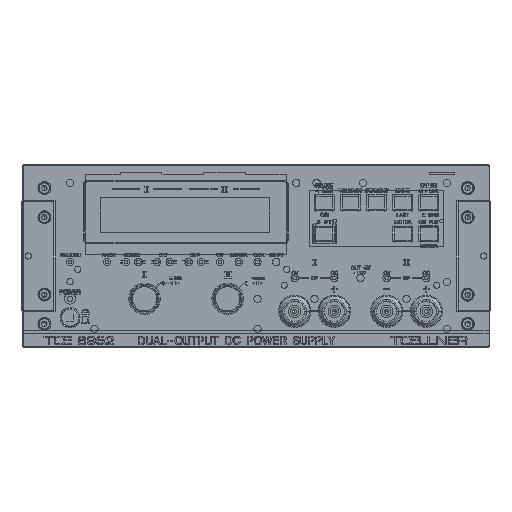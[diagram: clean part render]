
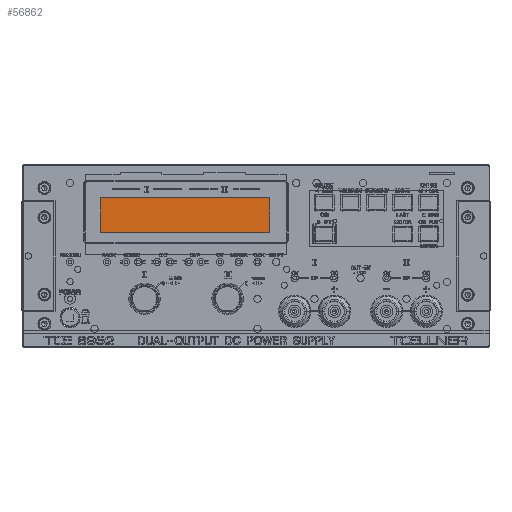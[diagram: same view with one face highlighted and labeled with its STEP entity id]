
A CAD part, top view. The second image highlights one B-rep face of the part: STEP entity #56862.
In plain terms, the highlighted planar face has unit normal (0, 0, 1).
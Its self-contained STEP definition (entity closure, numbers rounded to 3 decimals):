
#497 = DIRECTION ( 'NONE',  ( -1., 0., 0. ) ) ;
#2823 = AXIS2_PLACEMENT_3D ( 'NONE', #98848, #13564, #94377 ) ;
#13564 = DIRECTION ( 'NONE',  ( 0., 0., 1. ) ) ;
#14331 = EDGE_CURVE ( 'NONE', #58881, #36640, #81169, .T. ) ;
#20645 = CARTESIAN_POINT ( 'NONE',  ( -90.288, 27.625, 620.451 ) ) ;
#20994 = VECTOR ( 'NONE', #102765, 1000. ) ;
#22546 = ORIENTED_EDGE ( 'NONE', *, *, #68829, .T. ) ;
#24194 = CARTESIAN_POINT ( 'NONE',  ( -48.788, 18.325, 620.451 ) ) ;
#32036 = CARTESIAN_POINT ( 'NONE',  ( -90.288, 36.925, 620.451 ) ) ;
#36488 = VECTOR ( 'NONE', #497, 1000. ) ;
#36640 = VERTEX_POINT ( 'NONE', #78020 ) ;
#41014 = ORIENTED_EDGE ( 'NONE', *, *, #76368, .T. ) ;
#41267 = VERTEX_POINT ( 'NONE', #92683 ) ;
#45354 = CARTESIAN_POINT ( 'NONE',  ( -48.788, 36.925, 620.451 ) ) ;
#46850 = VERTEX_POINT ( 'NONE', #131985 ) ;
#52026 = VECTOR ( 'NONE', #99201, 1000. ) ;
#56862 = ADVANCED_FACE ( 'NONE', ( #129325 ), #132493, .T. ) ;
#57743 = VECTOR ( 'NONE', #67458, 1000. ) ;
#58881 = VERTEX_POINT ( 'NONE', #32036 ) ;
#67458 = DIRECTION ( 'NONE',  ( 0., 1., 0. ) ) ;
#68829 = EDGE_CURVE ( 'NONE', #46850, #58881, #83493, .T. ) ;
#76368 = EDGE_CURVE ( 'NONE', #36640, #41267, #131852, .T. ) ;
#78020 = CARTESIAN_POINT ( 'NONE',  ( -90.288, 18.325, 620.451 ) ) ;
#81169 = LINE ( 'NONE', #20645, #52026 ) ;
#83493 = LINE ( 'NONE', #45354, #36488 ) ;
#92683 = CARTESIAN_POINT ( 'NONE',  ( -7.288, 18.325, 620.451 ) ) ;
#94377 = DIRECTION ( 'NONE',  ( 1., 0., 0. ) ) ;
#98848 = CARTESIAN_POINT ( 'NONE',  ( -48.788, 27.625, 620.451 ) ) ;
#99201 = DIRECTION ( 'NONE',  ( 0., -1., 0. ) ) ;
#102765 = DIRECTION ( 'NONE',  ( 1., 0., 0. ) ) ;
#103400 = CARTESIAN_POINT ( 'NONE',  ( -7.288, 27.625, 620.451 ) ) ;
#107684 = EDGE_LOOP ( 'NONE', ( #111741, #41014, #132764, #22546 ) ) ;
#111741 = ORIENTED_EDGE ( 'NONE', *, *, #14331, .T. ) ;
#115648 = EDGE_CURVE ( 'NONE', #41267, #46850, #134809, .T. ) ;
#129325 = FACE_OUTER_BOUND ( 'NONE', #107684, .T. ) ;
#131852 = LINE ( 'NONE', #24194, #20994 ) ;
#131985 = CARTESIAN_POINT ( 'NONE',  ( -7.288, 36.925, 620.451 ) ) ;
#132493 = PLANE ( 'NONE',  #2823 ) ;
#132764 = ORIENTED_EDGE ( 'NONE', *, *, #115648, .T. ) ;
#134809 = LINE ( 'NONE', #103400, #57743 ) ;
